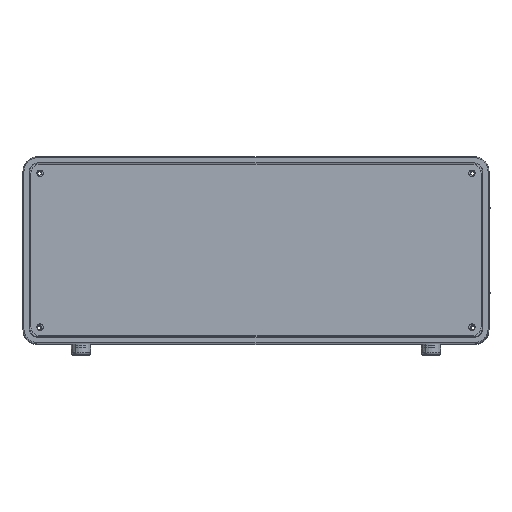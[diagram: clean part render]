
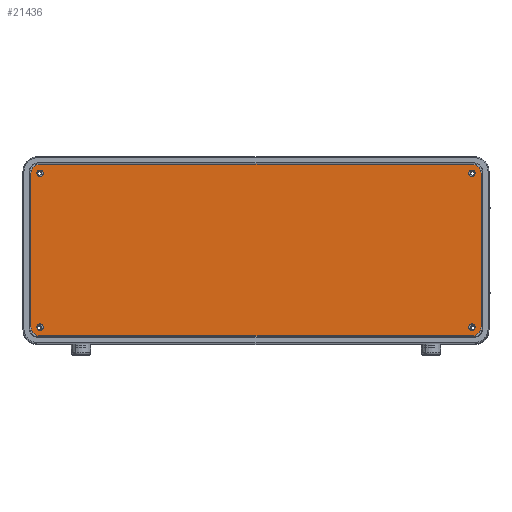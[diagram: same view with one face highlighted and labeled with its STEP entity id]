
A CAD part, top view. The second image highlights one B-rep face of the part: STEP entity #21436.
In plain terms, the highlighted planar face has unit normal (0, 0, 1) as drawn and (0, 1, 0) by its records, which use the part's own axes.
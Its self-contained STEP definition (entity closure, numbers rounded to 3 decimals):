
#9 = VERTEX_POINT ( 'NONE', #17309 ) ;
#75 = EDGE_CURVE ( 'NONE', #4593, #18955, #12124, .T. ) ;
#584 = DIRECTION ( 'NONE',  ( 0., 0., 1. ) ) ;
#619 = CARTESIAN_POINT ( 'NONE',  ( 168.35, 0., -62.5 ) ) ;
#646 = AXIS2_PLACEMENT_3D ( 'NONE', #11311, #2991, #8077 ) ;
#789 = EDGE_CURVE ( 'NONE', #11021, #13693, #18392, .T. ) ;
#932 = DIRECTION ( 'NONE',  ( 0., 0., 1. ) ) ;
#996 = DIRECTION ( 'NONE',  ( 0., 0., -1. ) ) ;
#1273 = CARTESIAN_POINT ( 'NONE',  ( 168.35, 0., -60. ) ) ;
#1563 = ORIENTED_EDGE ( 'NONE', *, *, #19717, .F. ) ;
#1846 = DIRECTION ( 'NONE',  ( 0., 1., 0. ) ) ;
#1982 = EDGE_CURVE ( 'NONE', #13275, #6217, #16454, .T. ) ;
#1984 = AXIS2_PLACEMENT_3D ( 'NONE', #19011, #10468, #7089 ) ;
#2229 = EDGE_CURVE ( 'NONE', #9, #11132, #22057, .T. ) ;
#2282 = AXIS2_PLACEMENT_3D ( 'NONE', #14456, #4244, #4161 ) ;
#2537 = LINE ( 'NONE', #13622, #13838 ) ;
#2846 = CARTESIAN_POINT ( 'NONE',  ( 168.35, 0., -60. ) ) ;
#2897 = DIRECTION ( 'NONE',  ( 0., 0., -1. ) ) ;
#2991 = DIRECTION ( 'NONE',  ( 0., 1., 0. ) ) ;
#3330 = AXIS2_PLACEMENT_3D ( 'NONE', #21459, #6126, #2897 ) ;
#3379 = DIRECTION ( 'NONE',  ( 0., 1., 0. ) ) ;
#3593 = DIRECTION ( 'NONE',  ( 0., 0., -1. ) ) ;
#3626 = AXIS2_PLACEMENT_3D ( 'NONE', #11904, #1846, #8595 ) ;
#3937 = VECTOR ( 'NONE', #6161, 1000. ) ;
#3993 = ORIENTED_EDGE ( 'NONE', *, *, #12509, .T. ) ;
#4161 = DIRECTION ( 'NONE',  ( 0., 0., -1. ) ) ;
#4244 = DIRECTION ( 'NONE',  ( 0., 1., 0. ) ) ;
#4313 = ORIENTED_EDGE ( 'NONE', *, *, #14434, .F. ) ;
#4362 = CARTESIAN_POINT ( 'NONE',  ( -168.35, 0., -60. ) ) ;
#4474 = CARTESIAN_POINT ( 'NONE',  ( -168.5, 0., -66.85 ) ) ;
#4478 = LINE ( 'NONE', #14566, #3937 ) ;
#4573 = CIRCLE ( 'NONE', #3626, 7. ) ;
#4593 = VERTEX_POINT ( 'NONE', #10914 ) ;
#4659 = EDGE_CURVE ( 'NONE', #10234, #20285, #8293, .T. ) ;
#4772 = VERTEX_POINT ( 'NONE', #8076 ) ;
#4811 = DIRECTION ( 'NONE',  ( 0., 0., 1. ) ) ;
#5073 = EDGE_LOOP ( 'NONE', ( #5097, #3993, #5415, #8705, #14045, #14813, #15456, #17625 ) ) ;
#5097 = ORIENTED_EDGE ( 'NONE', *, *, #789, .T. ) ;
#5415 = ORIENTED_EDGE ( 'NONE', *, *, #7109, .T. ) ;
#5994 = CIRCLE ( 'NONE', #16904, 2.5 ) ;
#6126 = DIRECTION ( 'NONE',  ( 0., 1., 0. ) ) ;
#6161 = DIRECTION ( 'NONE',  ( 1., 0., 0. ) ) ;
#6217 = VERTEX_POINT ( 'NONE', #7772 ) ;
#6396 = ORIENTED_EDGE ( 'NONE', *, *, #6975, .F. ) ;
#6975 = EDGE_CURVE ( 'NONE', #18955, #4593, #17032, .T. ) ;
#6991 = FACE_BOUND ( 'NONE', #15032, .T. ) ;
#7089 = DIRECTION ( 'NONE',  ( 0., 0., 1. ) ) ;
#7097 = VERTEX_POINT ( 'NONE', #17291 ) ;
#7109 = EDGE_CURVE ( 'NONE', #18774, #9, #9491, .T. ) ;
#7146 = CIRCLE ( 'NONE', #2282, 2.5 ) ;
#7265 = EDGE_CURVE ( 'NONE', #7097, #11021, #2537, .T. ) ;
#7746 = ORIENTED_EDGE ( 'NONE', *, *, #1982, .F. ) ;
#7772 = CARTESIAN_POINT ( 'NONE',  ( -168.35, 0., -57.5 ) ) ;
#7853 = DIRECTION ( 'NONE',  ( 0., 1., 0. ) ) ;
#7877 = CIRCLE ( 'NONE', #13724, 2.5 ) ;
#8076 = CARTESIAN_POINT ( 'NONE',  ( 168.35, 0., -57.5 ) ) ;
#8077 = DIRECTION ( 'NONE',  ( 0., 0., -1. ) ) ;
#8155 = CARTESIAN_POINT ( 'NONE',  ( 168.35, 0., 60. ) ) ;
#8170 = CARTESIAN_POINT ( 'NONE',  ( 168.35, 0., 62.5 ) ) ;
#8293 = LINE ( 'NONE', #13196, #16340 ) ;
#8318 = CARTESIAN_POINT ( 'NONE',  ( 168.5, 0., -66.85 ) ) ;
#8595 = DIRECTION ( 'NONE',  ( 0., 0., 1. ) ) ;
#8701 = CIRCLE ( 'NONE', #10833, 7. ) ;
#8705 = ORIENTED_EDGE ( 'NONE', *, *, #2229, .T. ) ;
#8792 = AXIS2_PLACEMENT_3D ( 'NONE', #13690, #3379, #14046 ) ;
#8877 = FACE_OUTER_BOUND ( 'NONE', #5073, .T. ) ;
#8879 = AXIS2_PLACEMENT_3D ( 'NONE', #11299, #9479, #21609 ) ;
#9479 = DIRECTION ( 'NONE',  ( 0., 1., 0. ) ) ;
#9491 = CIRCLE ( 'NONE', #1984, 7. ) ;
#9684 = CARTESIAN_POINT ( 'NONE',  ( -168.5, 0., 66.85 ) ) ;
#9789 = DIRECTION ( 'NONE',  ( 0., 0., -1. ) ) ;
#9888 = EDGE_LOOP ( 'NONE', ( #17311, #7746 ) ) ;
#9912 = VERTEX_POINT ( 'NONE', #619 ) ;
#10061 = DIRECTION ( 'NONE',  ( 0., 0., 1. ) ) ;
#10234 = VERTEX_POINT ( 'NONE', #8318 ) ;
#10468 = DIRECTION ( 'NONE',  ( 0., 1., 0. ) ) ;
#10535 = VECTOR ( 'NONE', #3593, 1000. ) ;
#10701 = EDGE_CURVE ( 'NONE', #12490, #16924, #21957, .T. ) ;
#10833 = AXIS2_PLACEMENT_3D ( 'NONE', #18700, #11829, #584 ) ;
#10842 = EDGE_CURVE ( 'NONE', #20285, #7097, #4573, .T. ) ;
#10914 = CARTESIAN_POINT ( 'NONE',  ( 168.35, 0., 57.5 ) ) ;
#11021 = VERTEX_POINT ( 'NONE', #16964 ) ;
#11132 = VERTEX_POINT ( 'NONE', #20396 ) ;
#11266 = CARTESIAN_POINT ( 'NONE',  ( 168.5, 0., 66.85 ) ) ;
#11299 = CARTESIAN_POINT ( 'NONE',  ( -168.35, 0., -60. ) ) ;
#11311 = CARTESIAN_POINT ( 'NONE',  ( -168.5, 0., 59.85 ) ) ;
#11829 = DIRECTION ( 'NONE',  ( 0., 1., 0. ) ) ;
#11848 = DIRECTION ( 'NONE',  ( 0., 1., 0. ) ) ;
#11904 = CARTESIAN_POINT ( 'NONE',  ( -168.5, 0., -59.85 ) ) ;
#12124 = CIRCLE ( 'NONE', #8792, 2.5 ) ;
#12324 = AXIS2_PLACEMENT_3D ( 'NONE', #4362, #16489, #932 ) ;
#12490 = VERTEX_POINT ( 'NONE', #16352 ) ;
#12509 = EDGE_CURVE ( 'NONE', #13693, #18774, #4478, .T. ) ;
#13196 = CARTESIAN_POINT ( 'NONE',  ( 168.5, 0., -66.85 ) ) ;
#13275 = VERTEX_POINT ( 'NONE', #20170 ) ;
#13471 = FACE_BOUND ( 'NONE', #16860, .T. ) ;
#13483 = EDGE_CURVE ( 'NONE', #11132, #10234, #8701, .T. ) ;
#13622 = CARTESIAN_POINT ( 'NONE',  ( -175.5, 0., 59.85 ) ) ;
#13690 = CARTESIAN_POINT ( 'NONE',  ( 168.35, 0., 60. ) ) ;
#13693 = VERTEX_POINT ( 'NONE', #9684 ) ;
#13724 = AXIS2_PLACEMENT_3D ( 'NONE', #1273, #18653, #9789 ) ;
#13750 = CARTESIAN_POINT ( 'NONE',  ( 175.5, 0., 59.85 ) ) ;
#13838 = VECTOR ( 'NONE', #10061, 1000. ) ;
#14045 = ORIENTED_EDGE ( 'NONE', *, *, #13483, .T. ) ;
#14046 = DIRECTION ( 'NONE',  ( 0., 0., 1. ) ) ;
#14434 = EDGE_CURVE ( 'NONE', #4772, #9912, #5994, .T. ) ;
#14456 = CARTESIAN_POINT ( 'NONE',  ( -168.35, 0., 60. ) ) ;
#14506 = CARTESIAN_POINT ( 'NONE',  ( -168.5, 0., 59.85 ) ) ;
#14566 = CARTESIAN_POINT ( 'NONE',  ( 168.5, 0., 66.85 ) ) ;
#14722 = DIRECTION ( 'NONE',  ( 0., -1., 0. ) ) ;
#14813 = ORIENTED_EDGE ( 'NONE', *, *, #4659, .T. ) ;
#15032 = EDGE_LOOP ( 'NONE', ( #4313, #1563 ) ) ;
#15456 = ORIENTED_EDGE ( 'NONE', *, *, #10842, .T. ) ;
#15972 = EDGE_CURVE ( 'NONE', #6217, #13275, #17097, .T. ) ;
#16116 = FACE_BOUND ( 'NONE', #18899, .T. ) ;
#16340 = VECTOR ( 'NONE', #19964, 1000. ) ;
#16352 = CARTESIAN_POINT ( 'NONE',  ( -168.35, 0., 57.5 ) ) ;
#16454 = CIRCLE ( 'NONE', #12324, 2.5 ) ;
#16489 = DIRECTION ( 'NONE',  ( 0., 1., 0. ) ) ;
#16860 = EDGE_LOOP ( 'NONE', ( #21294, #21227 ) ) ;
#16904 = AXIS2_PLACEMENT_3D ( 'NONE', #2846, #7853, #19836 ) ;
#16924 = VERTEX_POINT ( 'NONE', #17563 ) ;
#16964 = CARTESIAN_POINT ( 'NONE',  ( -175.5, 0., 59.85 ) ) ;
#17032 = CIRCLE ( 'NONE', #17764, 2.5 ) ;
#17080 = EDGE_CURVE ( 'NONE', #16924, #12490, #7146, .T. ) ;
#17097 = CIRCLE ( 'NONE', #8879, 2.5 ) ;
#17291 = CARTESIAN_POINT ( 'NONE',  ( -175.5, 0., -59.85 ) ) ;
#17309 = CARTESIAN_POINT ( 'NONE',  ( 175.5, 0., 59.85 ) ) ;
#17311 = ORIENTED_EDGE ( 'NONE', *, *, #15972, .F. ) ;
#17563 = CARTESIAN_POINT ( 'NONE',  ( -168.35, 0., 62.5 ) ) ;
#17625 = ORIENTED_EDGE ( 'NONE', *, *, #7265, .T. ) ;
#17764 = AXIS2_PLACEMENT_3D ( 'NONE', #8155, #11848, #4811 ) ;
#17995 = FACE_BOUND ( 'NONE', #9888, .T. ) ;
#18214 = PLANE ( 'NONE',  #18239 ) ;
#18239 = AXIS2_PLACEMENT_3D ( 'NONE', #14506, #14722, #996 ) ;
#18392 = CIRCLE ( 'NONE', #646, 7. ) ;
#18653 = DIRECTION ( 'NONE',  ( 0., 1., 0. ) ) ;
#18700 = CARTESIAN_POINT ( 'NONE',  ( 168.5, 0., -59.85 ) ) ;
#18774 = VERTEX_POINT ( 'NONE', #11266 ) ;
#18899 = EDGE_LOOP ( 'NONE', ( #6396, #21057 ) ) ;
#18955 = VERTEX_POINT ( 'NONE', #8170 ) ;
#19011 = CARTESIAN_POINT ( 'NONE',  ( 168.5, 0., 59.85 ) ) ;
#19717 = EDGE_CURVE ( 'NONE', #9912, #4772, #7877, .T. ) ;
#19836 = DIRECTION ( 'NONE',  ( 0., 0., -1. ) ) ;
#19964 = DIRECTION ( 'NONE',  ( -1., 0., 0. ) ) ;
#20170 = CARTESIAN_POINT ( 'NONE',  ( -168.35, 0., -62.5 ) ) ;
#20285 = VERTEX_POINT ( 'NONE', #4474 ) ;
#20396 = CARTESIAN_POINT ( 'NONE',  ( 175.5, 0., -59.85 ) ) ;
#21057 = ORIENTED_EDGE ( 'NONE', *, *, #75, .F. ) ;
#21227 = ORIENTED_EDGE ( 'NONE', *, *, #10701, .F. ) ;
#21294 = ORIENTED_EDGE ( 'NONE', *, *, #17080, .F. ) ;
#21436 = ADVANCED_FACE ( 'NONE', ( #13471, #16116, #6991, #17995, #8877 ), #18214, .F. ) ;
#21459 = CARTESIAN_POINT ( 'NONE',  ( -168.35, 0., 60. ) ) ;
#21609 = DIRECTION ( 'NONE',  ( 0., 0., 1. ) ) ;
#21957 = CIRCLE ( 'NONE', #3330, 2.5 ) ;
#22057 = LINE ( 'NONE', #13750, #10535 ) ;
